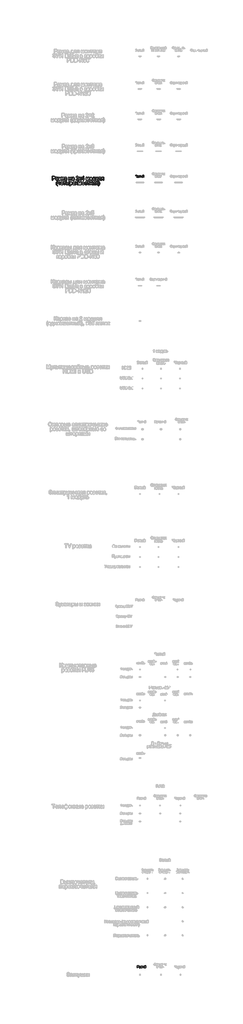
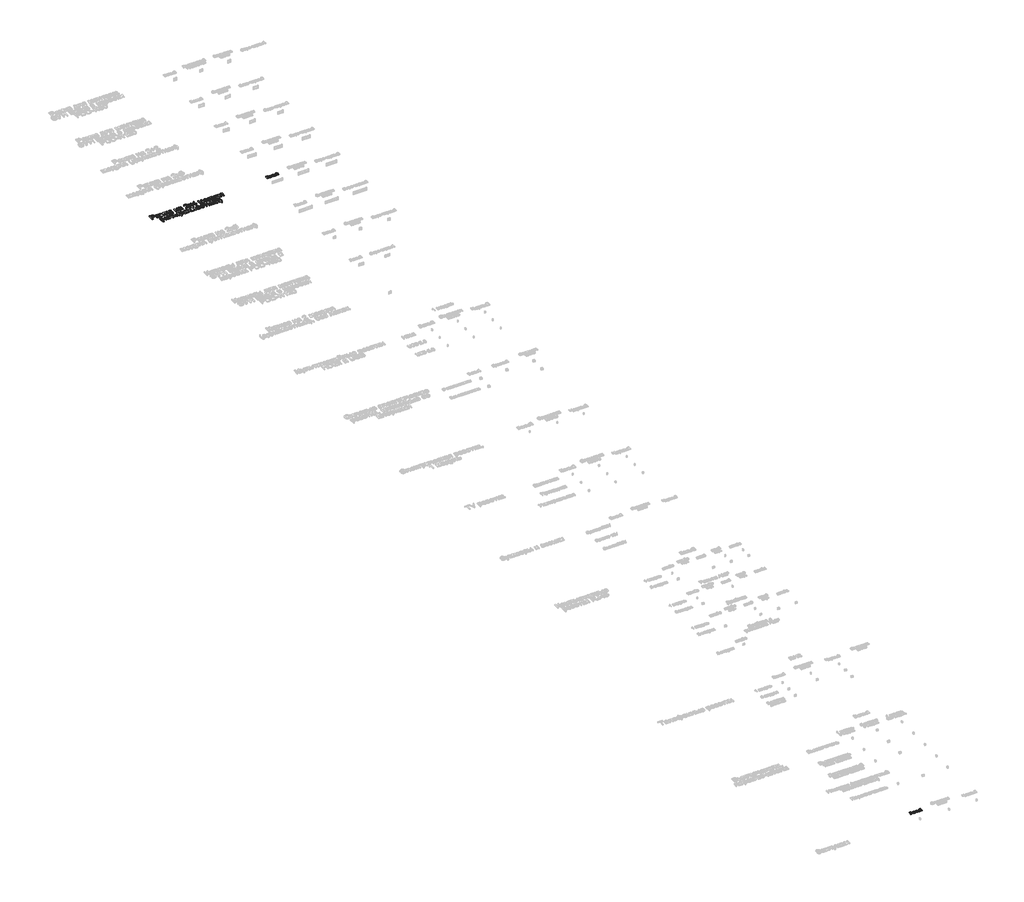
# One storey, part 18 of 47: 3 proxies.
"""IFC4 building model written with IfcOpenShell, lengths in millimetres."""

from ifc_helpers import new_model, si_unit, origin, origin_with_axes, place, context, project, spatial, polyline, outline, extrude, element, save

model = new_model("IFC4")

# Units and contexts
model_context = context("Model", 3, world=origin())
ifc_project = project(units=[si_unit("LENGTHUNIT", "METRE", prefix="MILLI")], contexts=[model_context])

# Site, building, storey
site = spatial("IfcSite", under=ifc_project)
building = spatial("IfcBuilding", under=site)
storey = spatial("IfcBuildingStorey", under=building, Name="Этаж 01", Elevation=0.0)

# Proxies
placement = place(None, origin())
element("IfcBuildingElementProxy", 1, Name="150 мм Arial", ObjectType="150 мм Arial", at=placement, inside=storey, context=model_context, shape_type="SweptSolid", body=[
    extrude(outline(polyline([(-3475.309235, -872.3963089), (-3475.309235, -721.7118436), (-3419.4647481, -721.7118436), (-3396.95037, -723.1465834), (-3378.6482408, -730.1915236), (-3366.7840464, -744.7596506), (-3362.2958861, -765.3058601), (-3365.326314, -783.0653634), (-3374.4175978, -797.8634166), (-3391.4183445, -807.8514128), (-3418.1771611, -811.1807449), (-3456.4736768, -811.1807449), (-3456.4736768, -872.3963089), (-3475.309235, -872.3963089)]), holes=[polyline([(-3456.4736768, -792.3451867), (-3417.0735152, -792.3451867), (-3400.3716726, -790.6161413), (-3389.3352127, -785.4290052), (-3383.1823864, -777.1056751), (-3381.1314442, -765.9680477), (-3385.9690925, -750.3698511), (-3398.6794154, -741.8349888), (-3417.5149736, -740.5474018), (-3456.4736768, -740.5474018), (-3456.4736768, -792.3451867)])]), origin_with_axes(), (0.0, 0.0, 1.0), 20.0),
    extrude(outline(polyline([(-3268.1180953, -858.2696403), (-3286.3834364, -871.0351455), (-3306.5617638, -874.7507536), (-3322.3025147, -872.5158705), (-3333.9137902, -865.8112212), (-3341.0736935, -855.6300869), (-3343.4603279, -842.9657493), (-3339.8550844, -828.0665284), (-3330.382123, -817.2507978), (-3317.1935535, -811.0703803), (-3300.8963811, -808.2376889), (-3268.2284599, -801.7629658), (-3268.1180953, -797.569111), (-3269.4148793, -789.1630075), (-3273.3052314, -783.6631716), (-3282.0056406, -779.5796815), (-3294.1273524, -778.2185181), (-3313.1836397, -781.8421558), (-3322.270325, -794.6996315), (-3341.1058832, -792.3451867), (-3332.957297, -773.951087), (-3316.54976, -763.1721445), (-3291.6993312, -759.3829599), (-3268.8722534, -762.7306861), (-3255.9779895, -771.1367897), (-3250.2022422, -783.920689), (-3249.2825372, -800.4018024), (-3249.2825372, -823.8358855), (-3248.326044, -856.558989), (-3244.5736476, -872.3963089), (-3263.4092058, -872.3963089), (-3268.1180953, -858.2696403)]), holes=[polyline([(-3268.1180953, -820.5985239), (-3298.5051481, -826.3742713), (-3314.71035, -829.4276918), (-3322.0495958, -834.3940988), (-3324.6247698, -841.6413741), (-3319.0145693, -851.8317053), (-3302.5518501, -855.9151955), (-3283.4955627, -851.408641), (-3271.2083041, -840.5009399), (-3268.2284599, -825.9328129), (-3268.1180953, -820.5985239)])]), origin_with_axes(), (0.0, 0.0, 1.0), 20.0),
    extrude(outline(polyline([(-3223.3836447, -761.7374047), (-3190.9732409, -761.7374047), (-3165.9940535, -850.3233892), (-3139.0650914, -761.7374047), (-3108.015851, -761.7374047), (-3108.015851, -872.3963089), (-3126.8514092, -872.3963089), (-3126.8514092, -783.2952896), (-3153.927524, -872.3963089), (-3178.6491941, -872.3963089), (-3204.5480865, -779.0278585), (-3204.5480865, -872.3963089), (-3223.3836447, -872.3963089), (-3223.3836447, -761.7374047)])), origin_with_axes(), (0.0, 0.0, 1.0), 20.0),
    extrude(outline(polyline([(-3079.7625138, -761.7374047), (-3060.9269556, -761.7374047), (-3060.9269556, -808.8263001), (-3048.3086032, -805.4417857), (-3037.9711191, -785.7233108), (-3029.3810745, -768.7087685), (-3021.8027054, -763.1721445), (-3008.0255247, -761.7374047), (-3004.4202812, -761.7374047), (-3004.4202812, -780.6833275), (-3009.4970527, -780.5729629), (-3018.6941026, -782.5595256), (-3025.1688257, -794.9571489), (-3032.7655889, -808.3664476), (-3043.4157727, -814.9331412), (-3031.5331842, -822.26319), (-3019.871325, -837.7050367), (-2999.7113916, -872.3963089), (-3021.1221238, -872.3963089), (-3040.8773869, -838.4408007), (-3050.8102008, -824.0750088), (-3060.9269556, -820.5985239), (-3060.9269556, -872.3963089), (-3079.7625138, -872.3963089), (-3079.7625138, -761.7374047)])), origin_with_axes(), (0.0, 0.0, 1.0), 20.0),
    extrude(outline(polyline([(-2917.3058247, -858.2696403), (-2935.5711658, -871.0351455), (-2955.7494932, -874.7507536), (-2971.4902441, -872.5158705), (-2983.1015196, -865.8112212), (-2990.2614229, -855.6300869), (-2992.6480573, -842.9657493), (-2989.0428138, -828.0665284), (-2979.5698524, -817.2507978), (-2966.3812829, -811.0703803), (-2950.0841105, -808.2376889), (-2917.4161893, -801.7629658), (-2917.3058247, -797.569111), (-2918.6026087, -789.1630075), (-2922.4929608, -783.6631716), (-2931.19337, -779.5796815), (-2943.3150818, -778.2185181), (-2962.3713691, -781.8421558), (-2971.4580544, -794.6996315), (-2990.2936126, -792.3451867), (-2982.1450264, -773.951087), (-2965.7374894, -763.1721445), (-2940.8870606, -759.3829599), (-2918.0599828, -762.7306861), (-2905.1657189, -771.1367897), (-2899.3899716, -783.920689), (-2898.4702666, -800.4018024), (-2898.4702666, -823.8358855), (-2897.5137734, -856.558989), (-2893.761377, -872.3963089), (-2912.5969352, -872.3963089), (-2917.3058247, -858.2696403)]), holes=[polyline([(-2917.3058247, -820.5985239), (-2947.6928775, -826.3742713), (-2963.8980794, -829.4276918), (-2971.2373252, -834.3940988), (-2973.8124992, -841.6413741), (-2968.2022987, -851.8317053), (-2951.7395795, -855.9151955), (-2932.6832921, -851.408641), (-2920.3960335, -840.5009399), (-2917.4161893, -825.9328129), (-2917.3058247, -820.5985239)])]), origin_with_axes(), (0.0, 0.0, 1.0), 20.0),
    extrude(outline(polyline([(-2813.7102549, -761.7374047), (-2794.8746967, -761.7374047), (-2794.8746967, -804.1174106), (-2745.4313566, -804.1174106), (-2745.4313566, -761.7374047), (-2726.5957984, -761.7374047), (-2726.5957984, -872.3963089), (-2745.4313566, -872.3963089), (-2745.4313566, -822.9529687), (-2794.8746967, -822.9529687), (-2794.8746967, -872.3963089), (-2813.7102549, -872.3963089), (-2813.7102549, -761.7374047)])), origin_with_axes(), (0.0, 0.0, 1.0), 20.0),
    extrude(outline(polyline([(-2627.7091181, -858.2696403), (-2645.9744592, -871.0351455), (-2666.1527866, -874.7507536), (-2681.8935375, -872.5158705), (-2693.504813, -865.8112212), (-2700.6647163, -855.6300869), (-2703.0513507, -842.9657493), (-2699.4461072, -828.0665284), (-2689.9731458, -817.2507978), (-2676.7845763, -811.0703803), (-2660.4874039, -808.2376889), (-2627.8194827, -801.7629658), (-2627.7091181, -797.569111), (-2629.0059021, -789.1630075), (-2632.8962542, -783.6631716), (-2641.5966634, -779.5796815), (-2653.7183752, -778.2185181), (-2672.7746625, -781.8421558), (-2681.8613478, -794.6996315), (-2700.696906, -792.3451867), (-2692.5483198, -773.951087), (-2676.1407828, -763.1721445), (-2651.290354, -759.3829599), (-2628.4632762, -762.7306861), (-2615.5690123, -771.1367897), (-2609.7932649, -783.920689), (-2608.87356, -800.4018024), (-2608.87356, -823.8358855), (-2607.9170668, -856.558989), (-2604.1646704, -872.3963089), (-2623.0002286, -872.3963089), (-2627.7091181, -858.2696403)]), holes=[polyline([(-2627.7091181, -820.5985239), (-2658.0961709, -826.3742713), (-2674.3013728, -829.4276918), (-2681.6406186, -834.3940988), (-2684.2157926, -841.6413741), (-2678.6055921, -851.8317053), (-2662.1428729, -855.9151955), (-2643.0865855, -851.408641), (-2630.7993269, -840.5009399), (-2627.8194827, -825.9328129), (-2627.7091181, -820.5985239)])]), origin_with_axes(), (0.0, 0.0, 1.0), 20.0),
    extrude(outline(polyline([(-2432.2902023, -853.5607507), (-2432.2902023, -872.3963089), (-2531.1768826, -872.3963089), (-2529.1535316, -859.4100744), (-2517.7124016, -839.415688), (-2494.1311657, -817.5818916), (-2461.6103973, -786.2015574), (-2455.5127532, -775.3858267), (-2453.4802052, -764.8644017), (-2455.3977901, -755.432827), (-2461.1505448, -747.592342), (-2469.9935083, -742.3086368), (-2481.1817194, -740.5474018), (-2492.9309507, -742.2672501), (-2502.0590227, -747.4267951), (-2507.9497331, -755.6213665), (-2509.9868797, -766.4462943), (-2528.8224378, -764.0918495), (-2524.2561025, -745.8724937), (-2514.3830695, -732.5643625), (-2499.7183735, -724.4249734), (-2480.7770492, -721.7118436), (-2461.6977693, -724.728476), (-2447.0606644, -733.7783731), (-2437.7486514, -747.2980364), (-2434.644647, -763.7239675), (-2437.9923732, -781.5846384), (-2449.1208036, -800.0523145), (-2476.1049479, -825.8592365), (-2497.7731974, -843.9774247), (-2506.2712715, -853.5607507), (-2432.2902023, -853.5607507)])), origin_with_axes(), (0.0, 0.0, 1.0), 20.0),
    extrude(outline(polyline([(-2420.5179784, -872.3963089), (-2380.2716882, -816.7725512), (-2418.1635337, -761.7374047), (-2395.5020028, -761.7374047), (-2377.2182676, -788.2249084), (-2368.6834053, -800.7328962), (-2361.2889772, -790.5057767), (-2340.4668563, -761.7374047), (-2317.8053254, -761.7374047), (-2357.6101573, -816.7725512), (-2319.2768534, -872.3963089), (-2341.9383843, -872.3963089), (-2365.0045854, -838.9558355), (-2369.2352283, -832.8489944), (-2397.8564475, -872.3963089), (-2420.5179784, -872.3963089)])), origin_with_axes(), (0.0, 0.0, 1.0), 20.0),
    extrude(outline(polyline([(-2246.2890655, -872.3963089), (-2246.2890655, -837.0796373), (-2314.5679638, -837.0796373), (-2314.5679638, -818.2440792), (-2241.580176, -724.0662884), (-2227.4535074, -724.0662884), (-2227.4535074, -818.2440792), (-2208.6179492, -818.2440792), (-2208.6179492, -837.0796373), (-2227.4535074, -837.0796373), (-2227.4535074, -872.3963089), (-2246.2890655, -872.3963089)]), holes=[polyline([(-2246.2890655, -818.2440792), (-2246.2890655, -760.0451475), (-2291.3913981, -818.2440792), (-2246.2890655, -818.2440792)])]), origin_with_axes(), (0.0, 0.0, 1.0), 20.0),
    extrude(outline(polyline([(-2128.5668271, -761.7374047), (-2096.1564233, -761.7374047), (-2071.1772358, -850.3233892), (-2044.2482738, -761.7374047), (-2013.1990334, -761.7374047), (-2013.1990334, -872.3963089), (-2032.0345915, -872.3963089), (-2032.0345915, -783.2952896), (-2059.1107064, -872.3963089), (-2083.8323764, -872.3963089), (-2109.7312689, -779.0278585), (-2109.7312689, -872.3963089), (-2128.5668271, -872.3963089), (-2128.5668271, -761.7374047)])), origin_with_axes(), (0.0, 0.0, 1.0), 20.0),
    extrude(outline(polyline([(-1989.6545857, -817.0668568), (-1985.5802926, -790.3862151), (-1973.3574133, -771.6334304), (-1958.2558574, -762.4455776), (-1940.1744573, -759.3829599), (-1920.3870045, -763.1123637), (-1904.5818743, -774.3005749), (-1894.2213976, -792.0646767), (-1890.7679054, -815.5217524), (-1892.2946157, -834.5504486), (-1896.8747465, -849.0358022), (-1904.3749407, -859.8837225), (-1914.661841, -868.000119), (-1926.8801217, -873.063095), (-1940.1744573, -874.7507536), (-1960.2010334, -871.0351455), (-1975.9877696, -859.888321), (-1986.2378816, -841.7517387), (-1989.6545857, -817.0668568)]), holes=[polyline([(-1970.8190275, -817.0300686), (-1968.6393267, -834.0768005), (-1962.1002242, -846.2215049), (-1952.2593809, -853.4917728), (-1940.1744573, -855.9151955), (-1928.1447161, -853.4779773), (-1918.3222668, -846.1663226), (-1911.7831643, -833.8606699), (-1909.6034635, -816.4414574), (-1911.7969599, -799.8913661), (-1918.3774491, -787.9122087), (-1928.213694, -780.6419407), (-1940.1744573, -778.2185181), (-1952.2593809, -780.6327437), (-1962.1002242, -787.8754205), (-1968.6393267, -799.9925337), (-1970.8190275, -817.0300686)])]), origin_with_axes(), (0.0, 0.0, 1.0), 20.0),
    extrude(outline(polyline([(-1853.0967891, -761.7374047), (-1782.463446, -761.7374047), (-1782.463446, -853.5607507), (-1768.3367774, -853.5607507), (-1768.3367774, -903.0040909), (-1787.1723355, -903.0040909), (-1787.1723355, -872.3963089), (-1864.8690129, -872.3963089), (-1864.8690129, -903.0040909), (-1883.7045711, -903.0040909), (-1883.7045711, -853.5607507), (-1871.9323472, -853.5607507), (-1863.3744923, -838.0959113), (-1857.3826143, -817.6370739), (-1853.0967891, -761.7374047)]), holes=[polyline([(-1836.6156757, -780.5729629), (-1841.0302596, -823.4863976), (-1850.7423443, -853.5607507), (-1801.2990041, -853.5607507), (-1801.2990041, -780.5729629), (-1836.6156757, -780.5729629)])]), origin_with_axes(), (0.0, 0.0, 1.0), 20.0),
    extrude(outline(polyline([(-1747.1467745, -914.7763147), (-1749.5012192, -896.6397323), (-1739.9362874, -898.2952013), (-1730.9967549, -896.2166681), (-1725.5153131, -890.4225266), (-1720.3649652, -876.5533754), (-1718.8934372, -871.9916387), (-1758.9189983, -761.7374047), (-1739.0533706, -761.7374047), (-1717.8265794, -823.1736979), (-1710.4321513, -847.7482152), (-1703.0377232, -826.0431775), (-1681.2223209, -761.7374047), (-1661.503846, -761.7374047), (-1700.0210909, -875.0450592), (-1710.0274811, -899.6195765), (-1720.9535764, -912.9001165), (-1735.632068, -917.1307595), (-1747.1467745, -914.7763147)])), origin_with_axes(), (0.0, 0.0, 1.0), 20.0),
    extrude(outline(polyline([(-1636.4878703, -761.7374047), (-1551.7278586, -761.7374047), (-1551.7278586, -872.2859443), (-1570.5634168, -872.2859443), (-1570.5634168, -780.5729629), (-1617.6523122, -780.5729629), (-1617.6523122, -833.3640292), (-1618.921505, -857.7178173), (-1625.8928688, -868.000119), (-1642.3739822, -872.3963089), (-1657.6778732, -871.4398157), (-1657.6778732, -853.5607507), (-1649.2533755, -853.5607507), (-1640.7369074, -852.4019224), (-1637.3339989, -848.7231025), (-1636.4878703, -832.2971714), (-1636.4878703, -761.7374047)])), origin_with_axes(), (0.0, 0.0, 1.0), 20.0),
    extrude(outline(polyline([(-1438.7145097, -761.7374047), (-1438.7145097, -872.3963089), (-1457.5500679, -872.3963089), (-1457.5500679, -830.016303), (-1467.8139755, -830.016303), (-1481.7934913, -832.407536), (-1494.9268786, -848.4839792), (-1509.936464, -872.3963089), (-1531.7150781, -872.3963089), (-1512.8059435, -842.1564089), (-1504.4550222, -831.30389), (-1496.7662885, -826.4846359), (-1509.6421584, -822.5391015), (-1518.6920555, -815.0435058), (-1524.0447385, -805.0739037), (-1525.8289662, -793.7063501), (-1523.3917479, -780.8120862), (-1516.0800933, -770.6033608), (-1504.1515196, -763.9538937), (-1487.8635443, -761.7374047), (-1438.7145097, -761.7374047)]), holes=[polyline([(-1457.5500679, -780.5729629), (-1482.3821025, -780.5729629), (-1495.2073886, -781.6628133), (-1502.4868536, -784.9323645), (-1506.993408, -795.1410899), (-1505.3333405, -802.3193873), (-1500.353138, -807.2995898), (-1476.8270844, -811.1807449), (-1457.5500679, -811.1807449), (-1457.5500679, -780.5729629)])]), origin_with_axes(), (0.0, 0.0, 1.0), 20.0),
    extrude(outline(polyline([(-3283.4219863, -1097.7385415), (-3298.0177045, -1077.2567114), (-3310.1670074, -1053.5559139), (-3318.3615788, -1027.7857801), (-3321.0931026, -1001.0959413), (-3319.0513575, -977.6894494), (-3312.9261223, -955.2946329), (-3300.7676224, -929.9291694), (-3283.4219863, -904.6740704), (-3269.2953177, -904.6740704), (-3286.9168653, -934.5093002), (-3297.5118667, -963.424825), (-3302.2575445, -1001.2063059), (-3300.1974053, -1025.3531604), (-3294.0169878, -1049.4908178), (-3283.7162919, -1073.6192782), (-3269.2953177, -1097.7385415), (-3283.4219863, -1097.7385415)])), origin_with_axes(), (0.0, 0.0, 1.0), 20.0),
    extrude(outline(polyline([(-3257.5230939, -944.6996315), (-3238.6875357, -944.6996315), (-3238.6875357, -965.9264226), (-3237.1608254, -985.8288385), (-3229.8215796, -996.607781), (-3215.2534526, -1001.2063059), (-3189.2441956, -995.504135), (-3189.2441956, -944.6996315), (-3170.4086374, -944.6996315), (-3170.4086374, -1055.3585356), (-3189.2441956, -1055.3585356), (-3189.2441956, -1013.567141), (-3220.2934359, -1020.0418641), (-3231.6839822, -1018.3542054), (-3241.6489858, -1013.2912295), (-3249.4158944, -1005.7818383), (-3254.2121559, -996.7549338), (-3257.5230939, -975.2338371), (-3257.5230939, -944.6996315)])), origin_with_axes(), (0.0, 0.0, 1.0), 20.0),
    extrude(outline(polyline([(-3064.679352, -1022.3963089), (-3046.2116758, -1024.7507536), (-3052.8657414, -1038.6658901), (-3063.4837355, -1049.0677535), (-3077.8265348, -1055.5516737), (-3095.655016, -1057.7129804), (-3117.7555268, -1053.9835767), (-3134.7608721, -1042.7953655), (-3145.6041939, -1024.8749138), (-3149.2186345, -1000.9487885), (-3145.5674057, -976.2179214), (-3134.6137193, -957.7226541), (-3117.8383003, -946.1895536), (-3096.7218738, -942.3451867), (-3076.2630363, -946.1803565), (-3059.9152801, -957.6858659), (-3049.1961185, -976.144345), (-3045.6230646, -1000.8384239), (-3045.7334292, -1005.9151955), (-3130.3830763, -1005.9151955), (-3127.1227221, -1020.0142729), (-3119.5489516, -1030.3793482), (-3108.6182578, -1036.7529037), (-3095.287134, -1038.8774222), (-3076.8194578, -1034.9410849), (-3064.679352, -1022.3963089)]), holes=[polyline([(-3130.3830763, -987.0796373), (-3064.4586228, -987.0796373), (-3067.0062056, -977.1284294), (-3072.0002037, -970.0099128), (-3082.9814812, -963.3880368), (-3096.7954502, -961.1807449), (-3109.4919775, -962.9419799), (-3119.99041, -968.2256851), (-3127.288269, -976.4616432), (-3130.3830763, -987.0796373)])]), origin_with_axes(), (0.0, 0.0, 1.0), 20.0),
    extrude(outline(polyline([(-3036.2052856, -944.6996315), (-2946.7363843, -944.6996315), (-2946.7363843, -963.5351896), (-2982.0530559, -963.5351896), (-2982.0530559, -1055.3585356), (-3000.888614, -1055.3585356), (-3000.888614, -963.5351896), (-3036.2052856, -963.5351896), (-3036.2052856, -944.6996315)])), origin_with_axes(), (0.0, 0.0, 1.0), 20.0),
    extrude(outline(polyline([(-2826.6597011, -944.6996315), (-2807.824143, -944.6996315), (-2807.824143, -1055.3585356), (-2826.6597011, -1055.3585356), (-2826.6597011, -944.6996315)])), origin_with_axes(), (0.0, 0.0, 1.0), 20.0),
    extrude(outline(polyline([(-2930.2552709, -944.6996315), (-2911.4197128, -944.6996315), (-2911.4197128, -984.7251926), (-2888.1327825, -984.7251926), (-2868.0050388, -987.0842359), (-2853.0920225, -994.1613657), (-2843.8627829, -1005.3863651), (-2840.7863697, -1020.1890169), (-2843.3661422, -1033.6672935), (-2851.1054597, -1045.0394457), (-2864.5101599, -1052.7787631), (-2884.0860806, -1055.3585356), (-2930.2552709, -1055.3585356), (-2930.2552709, -944.6996315)]), holes=[polyline([(-2911.4197128, -1036.5229775), (-2892.0691198, -1036.5229775), (-2867.0899324, -1032.568246), (-2861.488929, -1027.5052701), (-2859.6219279, -1020.2258051), (-2865.1585519, -1008.6375222), (-2874.0383036, -1004.8299436), (-2889.6043105, -1003.5607507), (-2911.4197128, -1003.5607507), (-2911.4197128, -1036.5229775)])]), origin_with_axes(), (0.0, 0.0, 1.0), 20.0),
    extrude(outline(polyline([(-2779.5708057, -1097.7385415), (-2779.5708057, -944.6996315), (-2760.7352476, -944.6996315), (-2760.7352476, -963.1673076), (-2747.7122249, -947.5507169), (-2730.1274656, -942.3451867), (-2717.3895515, -944.1662026), (-2706.2519241, -949.6292502), (-2697.1836329, -958.4032358), (-2690.6537275, -970.1570656), (-2685.393015, -999.182955), (-2686.8783385, -1015.2915878), (-2691.3343092, -1029.6987665), (-2698.6183727, -1041.6733254), (-2708.5879748, -1050.4840992), (-2720.1992502, -1055.9057601), (-2732.4083339, -1057.7129804), (-2748.7974768, -1052.8753322), (-2760.7352476, -1040.6432558), (-2760.7352476, -1097.7385415), (-2779.5708057, -1097.7385415)]), holes=[polyline([(-2760.7352476, -1000.9120003), (-2758.698101, -1017.7977839), (-2752.5866614, -1029.606796), (-2743.568954, -1036.5597657), (-2732.8130041, -1038.8774222), (-2721.8823104, -1036.4769922), (-2712.6346767, -1029.2757022), (-2706.330099, -1017.0344288), (-2704.2285731, -999.5140488), (-2706.2795152, -982.7202357), (-2712.4323416, -970.7456767), (-2721.4362534, -963.5719778), (-2732.0404519, -961.1807449), (-2742.6860372, -963.7237292), (-2752.0348384, -971.352682), (-2758.5601453, -983.8284802), (-2760.7352476, -1000.9120003)])]), origin_with_axes(), (0.0, 0.0, 1.0), 20.0),
    extrude(outline(polyline([(-2586.7270639, -1022.3963089), (-2568.2593877, -1024.7507536), (-2574.9134533, -1038.6658901), (-2585.5314474, -1049.0677535), (-2599.8742467, -1055.5516737), (-2617.7027278, -1057.7129804), (-2639.8032387, -1053.9835767), (-2656.8085839, -1042.7953655), (-2667.6519057, -1024.8749138), (-2671.2663463, -1000.9487885), (-2667.6151175, -976.2179214), (-2656.6614311, -957.7226541), (-2639.8860122, -946.1895536), (-2618.7695856, -942.3451867), (-2598.3107482, -946.1803565), (-2581.962992, -957.6858659), (-2571.2438304, -976.144345), (-2567.6707765, -1000.8384239), (-2567.7811411, -1005.9151955), (-2652.4307882, -1005.9151955), (-2649.170434, -1020.0142729), (-2641.5966634, -1030.3793482), (-2630.6659696, -1036.7529037), (-2617.3348458, -1038.8774222), (-2598.8671697, -1034.9410849), (-2586.7270639, -1022.3963089)]), holes=[polyline([(-2652.4307882, -987.0796373), (-2586.5063347, -987.0796373), (-2589.0539175, -977.1284294), (-2594.0479156, -970.0099128), (-2605.0291931, -963.3880368), (-2618.843162, -961.1807449), (-2631.5396894, -962.9419799), (-2642.0381218, -968.2256851), (-2649.3359809, -976.4616432), (-2652.4307882, -987.0796373)])]), origin_with_axes(), (0.0, 0.0, 1.0), 20.0),
    extrude(outline(polyline([(-2560.6074422, -1055.3585356), (-2520.3611519, -999.734778), (-2558.2529974, -944.6996315), (-2535.5914665, -944.6996315), (-2517.3077314, -971.1871351), (-2508.7728691, -983.695123), (-2501.378441, -973.4680035), (-2480.55632, -944.6996315), (-2457.8947891, -944.6996315), (-2497.699621, -999.734778), (-2459.3663171, -1055.3585356), (-2482.027848, -1055.3585356), (-2505.0940491, -1021.9180623), (-2509.3246921, -1015.8112212), (-2537.9459113, -1055.3585356), (-2560.6074422, -1055.3585356)])), origin_with_axes(), (0.0, 0.0, 1.0), 20.0),
    extrude(outline(polyline([(-2442.8852037, -944.6996315), (-2410.4748, -944.6996315), (-2385.4956125, -1033.2856159), (-2358.5666504, -944.6996315), (-2327.51741, -944.6996315), (-2327.51741, -1055.3585356), (-2346.3529682, -1055.3585356), (-2346.3529682, -966.2575164), (-2373.429083, -1055.3585356), (-2398.1507531, -1055.3585356), (-2424.0496456, -961.9900853), (-2424.0496456, -1055.3585356), (-2442.8852037, -1055.3585356), (-2442.8852037, -944.6996315)])), origin_with_axes(), (0.0, 0.0, 1.0), 20.0),
    extrude(outline(polyline([(-2221.7881246, -1022.3963089), (-2203.3204485, -1024.7507536), (-2209.9745141, -1038.6658901), (-2220.5925082, -1049.0677535), (-2234.9353074, -1055.5516737), (-2252.7637886, -1057.7129804), (-2274.8642995, -1053.9835767), (-2291.8696447, -1042.7953655), (-2302.7129665, -1024.8749138), (-2306.3274071, -1000.9487885), (-2302.6761783, -976.2179214), (-2291.7224919, -957.7226541), (-2274.9470729, -946.1895536), (-2253.8306464, -942.3451867), (-2233.371809, -946.1803565), (-2217.0240528, -957.6858659), (-2206.3048912, -976.144345), (-2202.7318373, -1000.8384239), (-2202.8422019, -1005.9151955), (-2287.491849, -1005.9151955), (-2284.2314948, -1020.0142729), (-2276.6577242, -1030.3793482), (-2265.7270304, -1036.7529037), (-2252.3959066, -1038.8774222), (-2233.9282305, -1034.9410849), (-2221.7881246, -1022.3963089)]), holes=[polyline([(-2287.491849, -987.0796373), (-2221.5673954, -987.0796373), (-2224.1149783, -977.1284294), (-2229.1089763, -970.0099128), (-2240.0902539, -963.3880368), (-2253.9042228, -961.1807449), (-2266.6007502, -962.9419799), (-2277.0991826, -968.2256851), (-2284.3970417, -976.4616432), (-2287.491849, -987.0796373)])]), origin_with_axes(), (0.0, 0.0, 1.0), 20.0),
    extrude(outline(polyline([(-2113.2629361, -1015.3329746), (-2094.4273779, -1017.6874193), (-2099.6788934, -1034.4398457), (-2109.5473279, -1047.0995848), (-2123.1037794, -1055.0596315), (-2139.4193459, -1057.7129804), (-2159.4551191, -1054.0111678), (-2175.1222935, -1042.9057301), (-2185.2344499, -1024.8841109), (-2188.6051687, -1000.4337538), (-2187.1658304, -983.6721303), (-2182.8478154, -969.1453901), (-2175.582146, -957.4145529), (-2165.2998443, -949.040639), (-2152.9987901, -944.0190498), (-2139.6768633, -942.3451867), (-2123.7613685, -944.6444492), (-2111.03725, -951.5422366), (-2101.909178, -962.6706669), (-2096.7818227, -977.6618583), (-2115.6173808, -980.016303), (-2124.3545782, -965.9080285), (-2139.5297105, -961.1807449), (-2151.702006, -963.5075985), (-2161.3635069, -970.4881593), (-2167.6680846, -982.4995065), (-2169.7696105, -999.918719), (-2167.7140699, -1017.5724562), (-2161.5474479, -1029.6251901), (-2152.060691, -1036.5643642), (-2140.0447453, -1038.8774222), (-2130.2912739, -1037.4334854), (-2122.294439, -1033.1016749), (-2116.477305, -1025.7716262), (-2113.2629361, -1015.3329746)])), origin_with_axes(), (0.0, 0.0, 1.0), 20.0),
    extrude(outline(polyline([(-2087.3640436, -944.6996315), (-1997.8951424, -944.6996315), (-1997.8951424, -963.5351896), (-2033.2118139, -963.5351896), (-2033.2118139, -1055.3585356), (-2052.0473721, -1055.3585356), (-2052.0473721, -963.5351896), (-2087.3640436, -963.5351896), (-2087.3640436, -944.6996315)])), origin_with_axes(), (0.0, 0.0, 1.0), 20.0),
    extrude(outline(polyline([(-1981.414029, -944.6996315), (-1962.5784708, -944.6996315), (-1962.5784708, -987.0796373), (-1913.1351307, -987.0796373), (-1913.1351307, -944.6996315), (-1894.2995725, -944.6996315), (-1894.2995725, -1055.3585356), (-1913.1351307, -1055.3585356), (-1913.1351307, -1005.9151955), (-1962.5784708, -1005.9151955), (-1962.5784708, -1055.3585356), (-1981.414029, -1055.3585356), (-1981.414029, -944.6996315)])), origin_with_axes(), (0.0, 0.0, 1.0), 20.0),
    extrude(outline(polyline([(-1795.4128922, -1041.231867), (-1813.6782333, -1053.9973723), (-1833.8565607, -1057.7129804), (-1849.5973116, -1055.4780973), (-1861.2085871, -1048.7734479), (-1868.3684904, -1038.5923137), (-1870.7551248, -1025.927976), (-1867.1498813, -1011.0287552), (-1857.6769199, -1000.2130246), (-1844.4883504, -994.032607), (-1828.191178, -991.1999157), (-1795.5232568, -984.7251926), (-1795.4128922, -980.5313378), (-1796.7096763, -972.1252342), (-1800.6000284, -966.6253984), (-1809.3004375, -962.5419083), (-1821.4221493, -961.1807449), (-1840.4784366, -964.8043825), (-1849.5651219, -977.6618583), (-1868.4006801, -975.3074135), (-1860.2520939, -956.9133137), (-1843.8445569, -946.1343713), (-1818.9941281, -942.3451867), (-1796.1670503, -945.6929129), (-1783.2727864, -954.0990165), (-1777.4970391, -966.8829158), (-1776.5773341, -983.3640292), (-1776.5773341, -1006.7981123), (-1775.6208409, -1039.5212157), (-1771.8684445, -1055.3585356), (-1790.7040027, -1055.3585356), (-1795.4128922, -1041.231867)]), holes=[polyline([(-1795.4128922, -1003.5607507), (-1825.799945, -1009.336498), (-1842.0051469, -1012.3899186), (-1849.3443927, -1017.3563255), (-1851.9195667, -1024.6036008), (-1846.3093663, -1034.7939321), (-1829.846647, -1038.8774222), (-1810.7903596, -1034.3708678), (-1798.503101, -1023.4631667), (-1795.5232568, -1008.8950396), (-1795.4128922, -1003.5607507)])]), origin_with_axes(), (0.0, 0.0, 1.0), 20.0),
    extrude(outline(polyline([(-1665.9184299, -944.6996315), (-1665.9184299, -1055.3585356), (-1684.7539881, -1055.3585356), (-1684.7539881, -1012.9785298), (-1695.0178957, -1012.9785298), (-1708.9974116, -1015.3697628), (-1722.1307988, -1031.4462059), (-1737.1403842, -1055.3585356), (-1758.9189983, -1055.3585356), (-1740.0098638, -1025.1186356), (-1731.6589425, -1014.2661168), (-1723.9702088, -1009.4468626), (-1736.8460786, -1005.5013282), (-1745.8959757, -998.0057326), (-1751.2486587, -988.0361305), (-1753.0328864, -976.6685769), (-1750.5956682, -963.7743129), (-1743.2840135, -953.5655876), (-1731.3554398, -946.9161205), (-1715.0674645, -944.6996315), (-1665.9184299, -944.6996315)]), holes=[polyline([(-1684.7539881, -963.5351896), (-1709.5860228, -963.5351896), (-1722.4113088, -964.62504), (-1729.6907738, -967.8945913), (-1734.1973282, -978.1033166), (-1732.5372607, -985.2816141), (-1727.5570582, -990.2618166), (-1704.0310046, -994.1429716), (-1684.7539881, -994.1429716), (-1684.7539881, -963.5351896)])]), origin_with_axes(), (0.0, 0.0, 1.0), 20.0),
    extrude(outline(polyline([(-1632.9562032, -1097.7385415), (-1647.0828718, -1097.7385415), (-1632.6618976, -1073.6192782), (-1622.3612017, -1049.4908178), (-1616.1807842, -1025.3531604), (-1614.120645, -1001.2063059), (-1618.8663227, -963.7559188), (-1629.3509596, -934.8036058), (-1647.0828718, -904.6740704), (-1632.9562032, -904.6740704), (-1615.6105671, -929.9291694), (-1603.4520671, -955.2946329), (-1597.3268319, -977.6894494), (-1595.2850868, -1001.0959413), (-1598.0304062, -1027.7857801), (-1606.2663644, -1053.5559139), (-1618.4294629, -1077.2567114), (-1632.9562032, -1097.7385415)])), origin_with_axes(), (0.0, 0.0, 1.0), 20.0),
])
element("IfcBuildingElementProxy", 2, Name="80 мм Arial", ObjectType="80 мм Arial", at=placement, inside=storey, context=model_context, shape_type="SweptSolid", body=[
    extrude(outline(polyline([(-164.9738634, -679.7372695), (-114.7457083, -679.7372695), (-114.7457083, -689.7829005), (-154.9282324, -689.7829005), (-154.9282324, -713.6412742), (-136.1122946, -713.6412742), (-119.5330794, -715.681793), (-109.6640317, -723.3925996), (-105.9557812, -736.5774903), (-108.5947214, -748.025978), (-116.4723012, -756.7276135), (-134.3072203, -760.1023176), (-164.9738634, -760.1023176), (-164.9738634, -679.7372695)]), holes=[polyline([(-154.9282324, -750.0566866), (-133.4046831, -750.0566866), (-120.357135, -746.7408436), (-116.0014122, -736.7933144), (-118.4931996, -728.9255448), (-125.4290015, -724.726785), (-140.5661193, -723.6869052), (-154.9282324, -723.6869052), (-154.9282324, -750.0566866)])]), origin_with_axes(), (0.0, 0.0, 1.0), 20.0),
    extrude(outline(polyline([(-52.0782367, -742.5224633), (-42.2288094, -743.7781672), (-51.4405746, -756.7472338), (-68.5985909, -761.3580215), (-80.38553, -759.3690062), (-89.4550474, -753.4019602), (-95.2381524, -743.844386), (-97.1658541, -731.0837858), (-95.218532, -717.89399), (-89.3765659, -708.0298475), (-80.4296758, -701.8788605), (-69.1675817, -699.8285315), (-58.2562017, -701.8739554), (-49.5373984, -708.0102271), (-43.8205122, -717.8547493), (-41.9148835, -731.0249247), (-41.9737446, -733.7325362), (-87.120223, -733.7325362), (-81.3420232, -746.7800843), (-68.4023871, -751.3123905), (-58.5529598, -749.2130106), (-52.0782367, -742.5224633)]), holes=[polyline([(-87.120223, -723.6869052), (-51.9605145, -723.6869052), (-55.982691, -714.5830521), (-69.2068224, -709.8741625), (-81.5774676, -713.631464), (-87.120223, -723.6869052)])]), origin_with_axes(), (0.0, 0.0, 1.0), 20.0),
    extrude(outline(polyline([(-26.8464369, -701.0842354), (18.3589026, -701.0842354), (18.3589026, -760.0434565), (8.3132716, -760.0434565), (8.3132716, -711.1298664), (-16.8008059, -711.1298664), (-16.8008059, -739.2851018), (-17.4777088, -752.2737888), (-21.1957695, -757.757683), (-29.9856966, -760.1023176), (-38.1477718, -759.5921879), (-38.1477718, -750.0566866), (-33.6547064, -750.0566866), (-29.11259, -749.4386449), (-27.2977055, -747.4766075), (-26.8464369, -738.716111), (-26.8464369, -701.0842354)])), origin_with_axes(), (0.0, 0.0, 1.0), 20.0),
    extrude(outline(polyline([(33.4273491, -701.0842354), (43.4729802, -701.0842354), (43.4729802, -722.4312013), (55.8926763, -722.4312013), (74.5810817, -727.463827), (79.5033428, -733.4504933), (81.1440965, -741.345241), (75.6405818, -754.598803), (68.4914084, -758.726439), (58.0509174, -760.1023176), (33.4273491, -760.1023176), (33.4273491, -701.0842354)]), holes=[polyline([(43.4729802, -750.0566866), (53.7932964, -750.0566866), (67.1155297, -747.9474965), (71.0984654, -741.3648613), (68.1455993, -735.1844438), (55.1078614, -732.4768323), (43.4729802, -732.4768323), (43.4729802, -750.0566866)])]), origin_with_axes(), (0.0, 0.0, 1.0), 20.0),
    extrude(outline(polyline([(88.6783197, -701.0842354), (98.7239507, -701.0842354), (98.7239507, -760.1023176), (88.6783197, -760.1023176), (88.6783197, -701.0842354)])), origin_with_axes(), (0.0, 0.0, 1.0), 20.0),
    extrude(outline(polyline([(113.7923973, -701.0842354), (123.8380283, -701.0842354), (123.8380283, -746.0933712), (148.5204576, -701.0842354), (161.5091446, -701.0842354), (161.5091446, -760.1023176), (151.4635136, -760.1023176), (151.4635136, -715.367867), (126.9380472, -760.1023176), (113.7923973, -760.1023176), (113.7923973, -701.0842354)])), origin_with_axes(), (0.0, 0.0, 1.0), 20.0),
    extrude(outline(polyline([(146.4406981, -679.7372695), (153.9749213, -679.7372695), (149.0992586, -690.911072), (138.2786229, -694.805716), (126.5652601, -690.9405025), (121.3266205, -679.7372695), (128.8608438, -679.7372695), (131.6861775, -685.3977471), (137.3760857, -687.2714928), (143.6153643, -685.4566083), (146.4406981, -679.7372695)])), origin_with_axes(), (0.0, 0.0, 1.0), 20.0),
])
element("IfcBuildingElementProxy", 3, Name="80 мм Arial", ObjectType="80 мм Arial", at=placement, inside=storey, context=model_context, shape_type="SweptSolid", body=[
    extrude(outline(polyline([(-92.4738634, -32090.5375901), (-42.2457083, -32090.5375901), (-42.2457083, -32100.5832211), (-82.4282324, -32100.5832211), (-82.4282324, -32124.4415948), (-63.6122946, -32124.4415948), (-47.0330794, -32126.4821136), (-37.1640317, -32134.1929202), (-33.4557812, -32147.3778109), (-36.0947214, -32158.8262986), (-43.9723012, -32167.527934), (-61.8072203, -32170.9026382), (-92.4738634, -32170.9026382), (-92.4738634, -32090.5375901)]), holes=[polyline([(-82.4282324, -32160.8570072), (-60.9046831, -32160.8570072), (-47.857135, -32157.5411642), (-43.5014122, -32147.593635), (-45.9931996, -32139.7258654), (-52.9290015, -32135.5271056), (-68.0661193, -32134.4872258), (-82.4282324, -32134.4872258), (-82.4282324, -32160.8570072)])]), origin_with_axes(), (0.0, 0.0, 1.0), 20.0),
    extrude(outline(polyline([(20.4217633, -32153.3227839), (30.2711906, -32154.5784878), (21.0594254, -32167.5475544), (3.9014091, -32172.1583421), (-7.88553, -32170.1693268), (-16.9550474, -32164.2022808), (-22.7381524, -32154.6447066), (-24.6658541, -32141.8841064), (-22.718532, -32128.6943106), (-16.8765659, -32118.8301681), (-7.9296758, -32112.6791811), (3.3324183, -32110.6288521), (14.2437983, -32112.674276), (22.9626016, -32118.8105477), (28.6794878, -32128.6550699), (30.5851165, -32141.8252453), (30.5262554, -32144.5328568), (-14.620223, -32144.5328568), (-8.8420232, -32157.5804049), (4.0976129, -32162.1127111), (13.9470402, -32160.0133312), (20.4217633, -32153.3227839)]), holes=[polyline([(-14.620223, -32134.4872258), (20.5394855, -32134.4872258), (16.517309, -32125.3833727), (3.2931776, -32120.6744831), (-9.0774676, -32124.4317846), (-14.620223, -32134.4872258)])]), origin_with_axes(), (0.0, 0.0, 1.0), 20.0),
    extrude(outline(polyline([(45.6535631, -32111.884556), (90.8589026, -32111.884556), (90.8589026, -32170.8437771), (80.8132716, -32170.8437771), (80.8132716, -32121.930187), (55.6991941, -32121.930187), (55.6991941, -32150.0854224), (55.0222912, -32163.0741094), (51.3042305, -32168.5580036), (42.5143034, -32170.9026382), (34.3522282, -32170.3925085), (34.3522282, -32160.8570072), (38.8452936, -32160.8570072), (43.38741, -32160.2389655), (45.2022945, -32158.2769281), (45.6535631, -32149.5164316), (45.6535631, -32111.884556)])), origin_with_axes(), (0.0, 0.0, 1.0), 20.0),
    extrude(outline(polyline([(105.9273491, -32111.884556), (115.9729802, -32111.884556), (115.9729802, -32133.2315219), (128.3926763, -32133.2315219), (147.0810817, -32138.2641476), (152.0033428, -32144.2508139), (153.6440965, -32152.1455616), (148.1405818, -32165.3991236), (140.9914084, -32169.5267596), (130.5509174, -32170.9026382), (105.9273491, -32170.9026382), (105.9273491, -32111.884556)]), holes=[polyline([(115.9729802, -32160.8570072), (126.2932964, -32160.8570072), (139.6155297, -32158.7478171), (143.5984654, -32152.1651819), (140.6455993, -32145.9847644), (127.6078614, -32143.2771529), (115.9729802, -32143.2771529), (115.9729802, -32160.8570072)])]), origin_with_axes(), (0.0, 0.0, 1.0), 20.0),
    extrude(outline(polyline([(161.1783197, -32111.884556), (171.2239507, -32111.884556), (171.2239507, -32170.9026382), (161.1783197, -32170.9026382), (161.1783197, -32111.884556)])), origin_with_axes(), (0.0, 0.0, 1.0), 20.0),
    extrude(outline(polyline([(186.2923973, -32111.884556), (196.3380283, -32111.884556), (196.3380283, -32156.8936918), (221.0204576, -32111.884556), (234.0091446, -32111.884556), (234.0091446, -32170.9026382), (223.9635136, -32170.9026382), (223.9635136, -32126.1681876), (199.4380472, -32170.9026382), (186.2923973, -32170.9026382), (186.2923973, -32111.884556)])), origin_with_axes(), (0.0, 0.0, 1.0), 20.0),
    extrude(outline(polyline([(218.9406981, -32090.5375901), (226.4749213, -32090.5375901), (221.5992586, -32101.7113926), (210.7786229, -32105.6060366), (199.0652601, -32101.7408231), (193.8266205, -32090.5375901), (201.3608438, -32090.5375901), (204.1861775, -32096.1980677), (209.8760857, -32098.0718134), (216.1153643, -32096.2569288), (218.9406981, -32090.5375901)])), origin_with_axes(), (0.0, 0.0, 1.0), 20.0),
])

save(model, "model.ifc")
